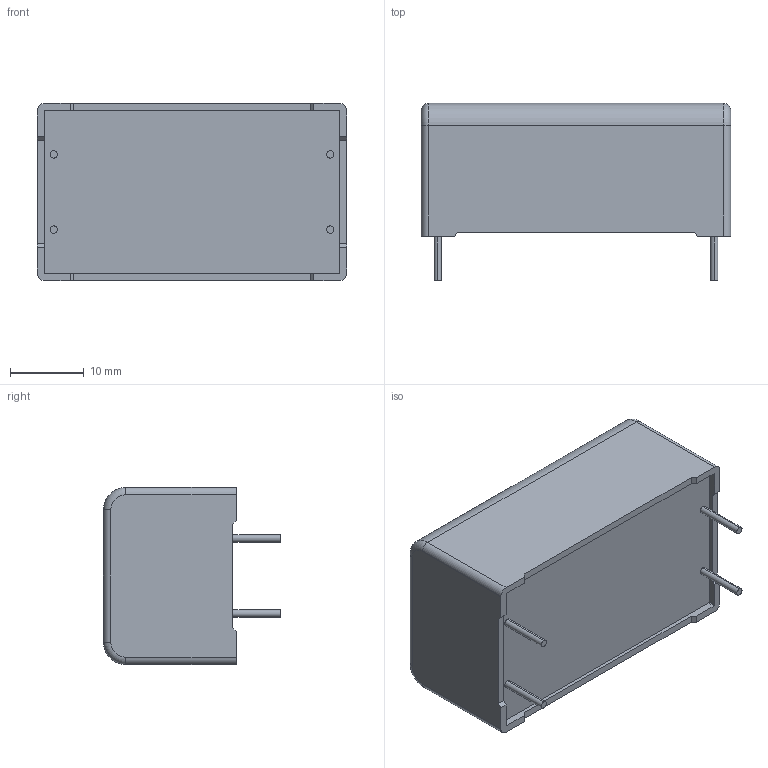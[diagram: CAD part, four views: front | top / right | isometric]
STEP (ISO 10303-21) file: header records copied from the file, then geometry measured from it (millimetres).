
FILE_DESCRIPTION (( 'STEP AP203' ), '1' );
FILE_NAME ('DC_Link_24x18x42_4pins10.2.step', '2017-04-03T15:59:54', ( 'work' ), ( 'Hewlett-Packard Company' ), 'SwSTEP 2.0', 'SolidWorks 2017', '' );
FILE_SCHEMA (( 'CONFIG_CONTROL_DESIGN' ));
Length unit declared in the file: millimetre
Products named in the file (1): DC_Link_24x18x42_4pins10.2
Bounding box: 42 x 24 x 24 mm (x, y, z)
Volume: 17052.4 mm3; surface area: 4345.1 mm2
Topology: 1 solids, 1 shells, 122 faces, 319 edges, 210 vertices
Faces by surface type: plane 82, cylinder 20, bspline 16, torus 4
Entity records: 4492 total; most frequent: CARTESIAN_POINT 1476, ORIENTED_EDGE 638, DIRECTION 545, EDGE_CURVE 319, VECTOR 243, LINE 243, VERTEX_POINT 210, AXIS2_PLACEMENT_3D 151
